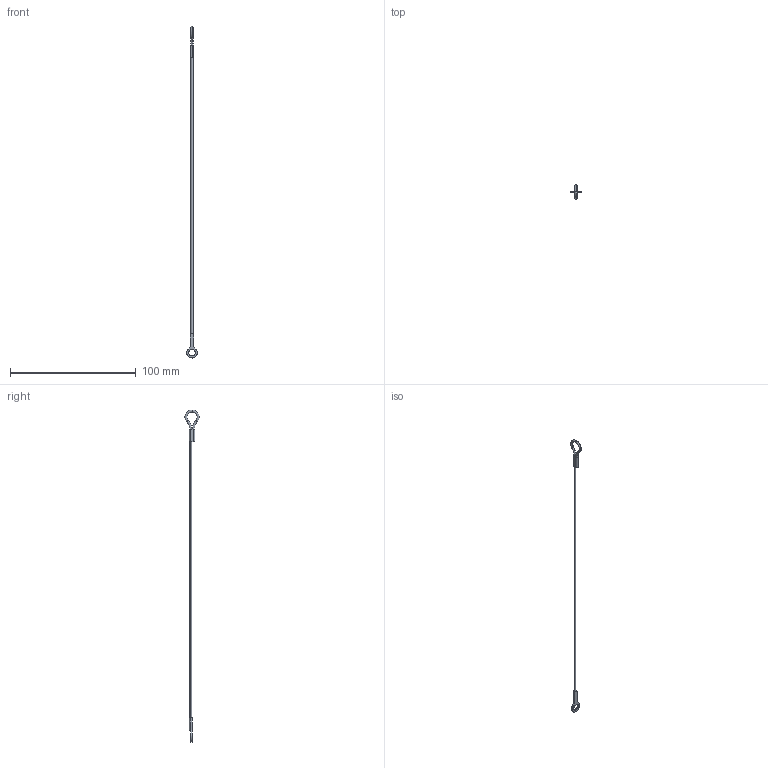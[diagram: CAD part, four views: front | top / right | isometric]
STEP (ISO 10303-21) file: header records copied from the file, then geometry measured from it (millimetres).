
FILE_DESCRIPTION (( 'STEP AP203' ), '1' );
FILE_NAME ('LA1075.I04-254C1.step', '2026-03-23T16:41:48', ( '' ), ( '' ), 'SwSTEP 2.0', 'SolidWorks 2019', '' );
FILE_SCHEMA (( 'CONFIG_CONTROL_DESIGN' ));
Length unit declared in the file: millimetre
Products named in the file (1): LA1075.I04-254C1
Bounding box: 8.36 x 11.16 x 263.79 mm (x, y, z)
Volume: 696.1 mm3; surface area: 1619.9 mm2
Topology: 1 solids, 1 shells, 30 faces, 70 edges, 44 vertices
Faces by surface type: plane 12, cylinder 10, torus 8
Entity records: 953 total; most frequent: DIRECTION 170, CARTESIAN_POINT 145, ORIENTED_EDGE 140, EDGE_CURVE 70, AXIS2_PLACEMENT_3D 69, VERTEX_POINT 44, CIRCLE 38, EDGE_LOOP 36
